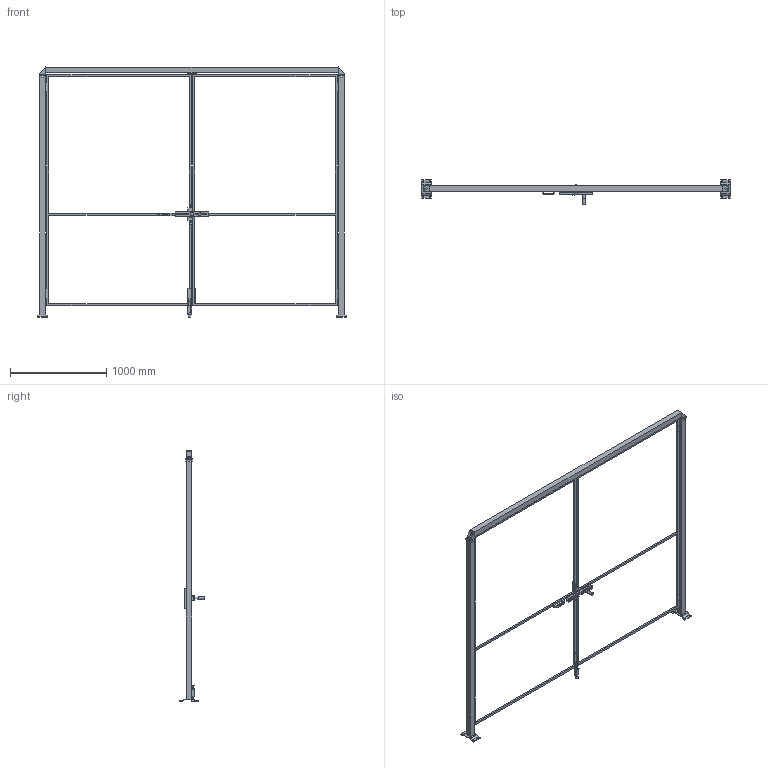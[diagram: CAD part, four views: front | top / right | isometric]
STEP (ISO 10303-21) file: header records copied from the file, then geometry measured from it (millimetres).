
FILE_DESCRIPTION(/* description */ (''),/* implementation_level */ '2;1');
FILE_NAME(/* name */ 'C:\SafeGuarding\ELABORATI\VZOR§DVOUKŘÍDLÉ_2025-02-03-08-47-25.stp',/* time_stamp */ '2025-02-03T08:47:30+01:00',/* author */ ('admin'),/* organization */ (''),/* preprocessor_version */ 'ST-DEVELOPER v18.1',/* originating_system */ 'AutoCAD Mechanical',/* authorisation */ '');
FILE_SCHEMA (('AUTOMOTIVE_DESIGN { 1 0 10303 214 3 1 1 }'));
Length unit declared in the file: millimetre
Products named in the file (5): Product; *U4; DATI_PORTA; P_VFMA.ME60SDU.2520; VFPA.REPE2015002400
Assembly tree (6 placements, depth 2):
  Product
    VFPA.REPE2015002400  x2
    P_VFMA.ME60SDU.2520  x2
    *U4
    DATI_PORTA
Bounding box: 3205 x 255.79 x 2600.5 mm (x, y, z)
Volume: 37539034.6 mm3; surface area: 3986967.4 mm2
Topology: 27 solids, 38 shells, 396 faces, 1380 edges, 1350 vertices
Faces by surface type: plane 352, cylinder 42, cone 2
Full cylindrical faces by diameter (mm): 11 x25, 12 x1, 14 x2, 24 x1, 30 x1
Entity records: 12029 total; most frequent: CARTESIAN_POINT 2551, DIRECTION 1810, ORIENTED_EDGE 1700, EDGE_CURVE 899, LINE 864, VECTOR 864, VERTEX_POINT 635, AXIS2_PLACEMENT_3D 473
